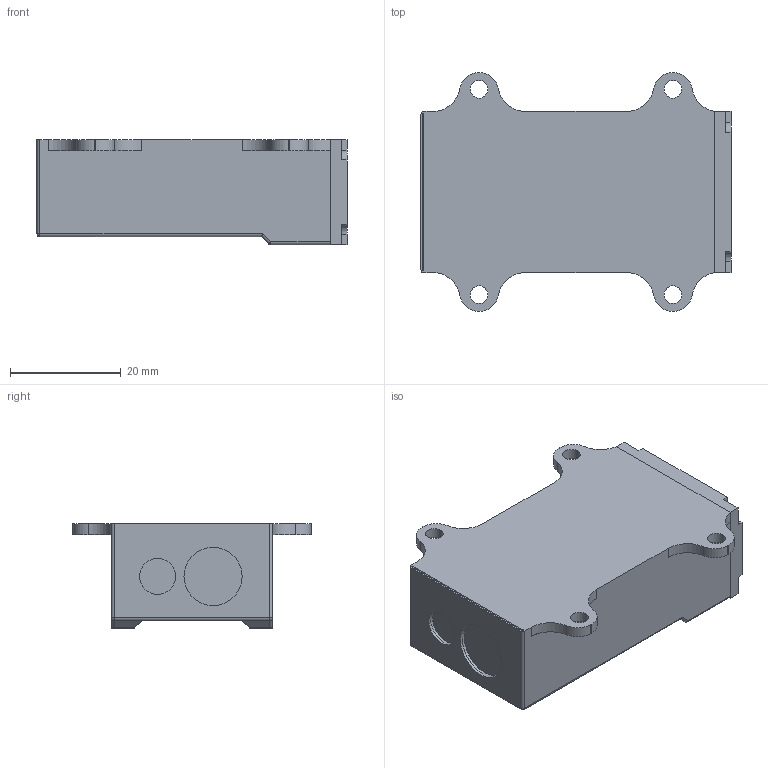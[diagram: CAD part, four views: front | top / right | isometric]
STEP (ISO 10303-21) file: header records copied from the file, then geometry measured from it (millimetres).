
FILE_DESCRIPTION((''),'2;1');
FILE_NAME('ASM0001_ASM_ASM','2024-04-22T',('Administrator'),(''),'PRO/ENGINEER BY PARAMETRIC TECHNOLOGY CORPORATION, 2008380','PRO/ENGINEER BY PARAMETRIC TECHNOLOGY CORPORATION, 2008380','');
FILE_SCHEMA(('CONFIG_CONTROL_DESIGN'));
Length unit declared in the file: millimetre
Products named in the file (4): PRT0001; PRT0002; ASM0001_ASM_1_ASM; ASM0001_ASM_ASM
Assembly tree (3 placements, depth 3):
  ASM0001_ASM_ASM
    ASM0001_ASM_1_ASM
      PRT0001
      PRT0002
Bounding box: 56 x 43.1 x 19.04 mm (x, y, z)
Volume: 28641.5 mm3; surface area: 8095.6 mm2
Topology: 2 solids, 2 shells, 126 faces, 334 edges, 216 vertices
Faces by surface type: cylinder 68, plane 52, sphere 6
Entity records: 4069 total; most frequent: DIRECTION 732, CARTESIAN_POINT 696, ORIENTED_EDGE 656, EDGE_CURVE 328, AXIS2_PLACEMENT_3D 273, VERTEX_POINT 216, VECTOR 186, LINE 186
